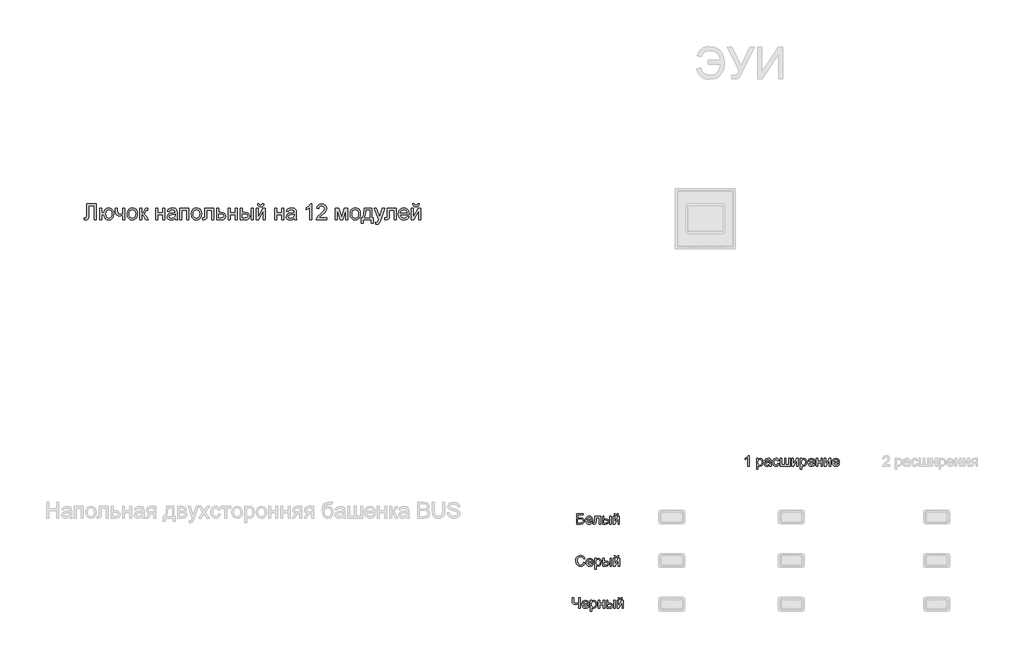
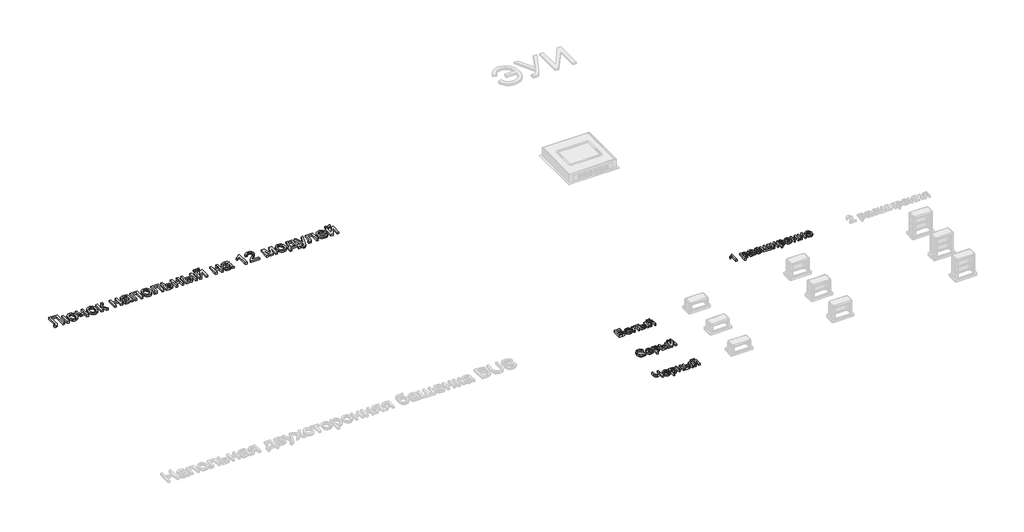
# One storey, part 36 of 48: 5 proxies.
"""IFC4 building model written with IfcOpenShell, lengths in millimetres."""

import ifcopenshell
import ifcopenshell.guid

model = None  # the IFC model being written
_history = None  # IfcOwnerHistory: only IFC2X3 demands one
_inside = {}  # id of a spatial element -> (the spatial element, [elements in it])
_under = {}  # id of a project, library or spatial element -> (it, [spatial elements below it])
_declared = {}  # id of a project -> (the project, [libraries it declares])
_typed = {}  # id of a type object -> (the type object, [elements of that type])
_made_of = {}  # id of a material, layer set ... -> (it, [elements and type objects made of it])


def new_model(schema):
    """Start an empty IFC model of exactly this schema.

    Asked for "IFC4X3", IfcOpenShell would pick the latest addendum, in which some entities
    have other attributes; the version numbers below select the first issue.
    IFC2X3 requires an IfcOwnerHistory on every rooted entity: one is made here for all.
    """
    global model, _history
    if schema == "IFC4X3":
        model = ifcopenshell.file(schema_version=(4, 3, 0, 0))
    else:
        model = ifcopenshell.file(schema=schema)
    _inside.clear()
    _under.clear()
    _declared.clear()
    _typed.clear()
    _made_of.clear()
    _history = None
    if model.schema == "IFC2X3":
        org = make("IfcOrganization", Name="unknown")
        user = make(
            "IfcPersonAndOrganization",
            ThePerson=make("IfcPerson", FamilyName="unknown"),
            TheOrganization=org,
        )
        app = make(
            "IfcApplication",
            ApplicationDeveloper=org,
            Version="unknown",
            ApplicationFullName="unknown",
            ApplicationIdentifier="unknown",
        )
        _history = make(
            "IfcOwnerHistory",
            OwningUser=user,
            OwningApplication=app,
            ChangeAction="ADDED",
            CreationDate=0,
        )
    return model


def make(cls, **values):
    """One entity of the class cls with the attributes given. An attribute that is None is left unset."""
    return model.create_entity(
        cls, **{name: value for name, value in values.items() if value is not None}
    )


def rooted(cls, **values):
    """An entity with a GlobalId (a new one), such as an element, a storey or a relation."""
    return make(cls, GlobalId=ifcopenshell.guid.new(), OwnerHistory=_history, **values)


def si_unit(unit_type, name, prefix=None):
    """IfcSIUnit, for example si_unit("LENGTHUNIT", "METRE", prefix="MILLI")."""
    return make("IfcSIUnit", UnitType=unit_type, Prefix=prefix, Name=name)


def assignment(units):
    """IfcUnitAssignment: the units of a project."""
    return None if units is None else make("IfcUnitAssignment", Units=units)


def point(xyz):
    """IfcCartesianPoint."""
    return None if xyz is None else make("IfcCartesianPoint", Coordinates=xyz)


def direction(xyz):
    """IfcDirection."""
    return None if xyz is None else make("IfcDirection", DirectionRatios=xyz)


def frame(location, z_axis=None, x_axis=None):
    """IfcAxis2Placement3D, a coordinate frame: its origin and axes. An axis left out is left unset."""
    return make(
        "IfcAxis2Placement3D",
        Location=point(location),
        Axis=direction(z_axis),
        RefDirection=direction(x_axis),
    )


def origin():
    """The frame at (0, 0, 0) with its axes left unset."""
    return frame((0.0, 0.0, 0.0))


def origin_with_axes():
    """The frame at (0, 0, 0) with the z axis (0, 0, 1) and the x axis (1, 0, 0) written out."""
    return frame((0.0, 0.0, 0.0), z_axis=(0.0, 0.0, 1.0), x_axis=(1.0, 0.0, 0.0))


def place(relative_to, where):
    """IfcLocalPlacement: puts the frame where relative to a parent placement (None: the world)."""
    return make(
        "IfcLocalPlacement", PlacementRelTo=relative_to, RelativePlacement=where
    )


def context(
    kind, dimensions, precision=None, world=None, true_north=None, identifier=None
):
    """IfcGeometricRepresentationContext, for example the 3D "Model" context."""
    return make(
        "IfcGeometricRepresentationContext",
        ContextIdentifier=identifier,
        ContextType=kind,
        CoordinateSpaceDimension=dimensions,
        Precision=precision,
        WorldCoordinateSystem=world,
        TrueNorth=true_north,
    )


def project(units=None, contexts=None):
    """IfcProject with its units and contexts."""
    return rooted(
        "IfcProject",
        Name="project",
        RepresentationContexts=contexts,
        UnitsInContext=assignment(units),
    )


def spatial(cls, under=None, at=None, **own):
    """A site, building, storey or space (cls), placed at a placement, below another one or the project."""
    s = rooted(cls, ObjectPlacement=at, **own)
    if under is not None:
        _under.setdefault(under.id(), (under, []))[1].append(s)
    return s


def polyline(points):
    """IfcPolyline through the points."""
    return make("IfcPolyline", Points=[point(p) for p in points])


def outline(outer, holes=None, kind="AREA"):
    """IfcArbitraryClosedProfileDef: a profile drawn as a closed curve; with holes, ...WithVoids."""
    if holes is None:
        return make("IfcArbitraryClosedProfileDef", ProfileType=kind, OuterCurve=outer)
    return make(
        "IfcArbitraryProfileDefWithVoids",
        ProfileType=kind,
        OuterCurve=outer,
        InnerCurves=holes,
    )


def extrude(swept, where, along, depth):
    """IfcExtrudedAreaSolid: the profile swept, set in the frame where, extruded along a direction by depth."""
    return make(
        "IfcExtrudedAreaSolid",
        SweptArea=swept,
        Position=where,
        ExtrudedDirection=direction(along),
        Depth=depth,
    )


def shape(context_of_items, identifier, shape_type, items):
    """IfcShapeRepresentation: the items that make up one representation, for example the "Body"."""
    return make(
        "IfcShapeRepresentation",
        ContextOfItems=context_of_items,
        RepresentationIdentifier=identifier,
        RepresentationType=shape_type,
        Items=items,
    )


def made_of(thing, what):
    """Note that an element or type object is made of a material, layer set ...; save() writes the relation."""
    if what is not None:
        _made_of.setdefault(what.id(), (what, []))[1].append(thing)
    return thing


def element(
    cls,
    number,
    at=None,
    inside=None,
    cuts=None,
    type_object=None,
    material=None,
    context=None,
    identifier="Body",
    shape_type=None,
    held_by="IfcProductDefinitionShape",
    body=None,
    shapes=None,
    **own,
):
    """One element of the class cls, such as IfcWall. Its Tag is "e" and its number.

    at: its placement. inside: the storey or other place that contains it. cuts: it is an
    opening in that element (IfcRelVoidsElement). A single representation is given by context,
    identifier, shape_type and body (its items); several are given by shapes. held_by: the class
    of the entity that holds the representations. save() writes the other relations.
    """
    e = rooted(cls, Tag="e%d" % number, ObjectPlacement=at, **own)
    if body is not None:
        shapes = [shape(context, identifier, shape_type, body)]
    if shapes is not None:
        e.Representation = make(held_by, Representations=shapes)
    if inside is not None:
        _inside.setdefault(inside.id(), (inside, []))[1].append(e)
    if cuts is not None:
        rooted(
            "IfcRelVoidsElement", RelatingBuildingElement=cuts, RelatedOpeningElement=e
        )
    if type_object is not None:
        _typed.setdefault(type_object.id(), (type_object, []))[1].append(e)
    return made_of(e, material)


def aggregate(whole, parts):
    """IfcRelAggregates: a whole, such as a stair, and the parts it consists of."""
    return rooted("IfcRelAggregates", RelatingObject=whole, RelatedObjects=parts)


def save(model, path):
    """Write the relations noted so far, then the file.

    IfcRelAggregates (storeys below a building ...), IfcRelContainedInSpatialStructure (elements
    in a storey), IfcRelDefinesByType, IfcRelAssociatesMaterial and IfcRelDeclares: one each for
    every whole, place, type object, material and project.
    """
    for whole, parts in _under.values():
        aggregate(whole, parts)
    for where, things in _inside.values():
        rooted(
            "IfcRelContainedInSpatialStructure",
            RelatedElements=things,
            RelatingStructure=where,
        )
    for kind, things in _typed.values():
        rooted("IfcRelDefinesByType", RelatedObjects=things, RelatingType=kind)
    for what, things in _made_of.values():
        rooted("IfcRelAssociatesMaterial", RelatedObjects=things, RelatingMaterial=what)
    for by, libraries in _declared.values():
        rooted("IfcRelDeclares", RelatingContext=by, RelatedDefinitions=libraries)
    model.write(path)


model = new_model("IFC4")

# Units and contexts
model_context = context("Model", 3, world=origin())
ifc_project = project(units=[si_unit("LENGTHUNIT", "METRE", prefix="MILLI")], contexts=[model_context])

# Site, building, storey
site = spatial("IfcSite", under=ifc_project)
building = spatial("IfcBuilding", under=site)
storey = spatial("IfcBuildingStorey", under=building, Name="Этаж 01", Elevation=0.0)

# Proxies
placement = place(None, origin())
element("IfcBuildingElementProxy", 1, Name="150 мм Arial", ObjectType="150 мм Arial", at=placement, inside=storey, context=model_context, shape_type="SweptSolid", body=[
    extrude(outline(polyline([(19977.6661893, 4018.1482068), (20069.4895353, 4018.1482068), (20069.4895353, 3867.4637416), (20050.6539772, 3867.4637416), (20050.6539772, 3999.3126486), (19996.5017475, 3999.3126486), (19996.5017475, 3922.4253117), (19994.3128496, 3888.1203156), (19990.9237367, 3878.426625), (19985.1341938, 3871.1609556), (19977.2063369, 3866.6222115), (19967.4022817, 3865.1092968), (19951.7672969, 3867.4637416), (19954.1217417, 3886.2992997), (19963.1348505, 3883.944855), (19974.0425517, 3889.0032324), (19977.6661893, 3912.8235916), (19977.6661893, 4018.1482068)])), origin_with_axes(), (0.0, 0.0, 1.0), 20.0),
    extrude(outline(polyline([(20100.0973173, 3978.1226457), (20118.9328755, 3978.1226457), (20118.9328755, 3935.7426399), (20140.1228784, 3935.7426399), (20145.0111104, 3954.94608), (20154.7461877, 3968.9991722), (20168.711908, 3977.6076109), (20186.2920688, 3980.4770905), (20201.0671294, 3978.7894318), (20212.3565082, 3973.7264559), (20228.1018576, 3955.130021), (20232.7509663, 3941.2240816), (20234.3006692, 3923.1978638), (20231.0954973, 3898.0715236), (20221.4799816, 3879.8613648), (20206.3738272, 3868.7973138), (20186.696739, 3865.1092968), (20168.3072378, 3868.5673876), (20153.9736355, 3878.9416598), (20144.3581199, 3895.3491968), (20140.1228784, 3916.9070817), (20118.9328755, 3916.9070817), (20118.9328755, 3867.4637416), (20100.0973173, 3867.4637416), (20100.0973173, 3978.1226457)]), holes=[polyline([(20187.5060794, 3961.6415323), (20175.4993308, 3959.2043141), (20166.4816234, 3951.8926595), (20160.8392333, 3940.184815), (20158.9584366, 3924.5590272), (20160.8530288, 3906.353467), (20166.5368057, 3893.7489101), (20175.3935647, 3886.3958687), (20186.8071036, 3883.944855), (20198.2528322, 3886.2119278), (20207.4268894, 3893.0131461), (20213.4555556, 3904.8635449), (20215.465111, 3922.2781589), (20213.7268686, 3939.4996348), (20208.5121413, 3951.800689), (20199.784141, 3959.1813215), (20187.5060794, 3961.6415323)])]), origin_with_axes(), (0.0, 0.0, 1.0), 20.0),
    extrude(outline(polyline([(20250.7817826, 3978.1226457), (20269.6173407, 3978.1226457), (20269.6173407, 3956.8958546), (20271.144051, 3936.9934387), (20278.4832968, 3926.2144962), (20293.0514238, 3921.6159713), (20319.0606809, 3927.3181422), (20319.0606809, 3978.1226457), (20337.896239, 3978.1226457), (20337.896239, 3867.4637416), (20319.0606809, 3867.4637416), (20319.0606809, 3909.2551362), (20288.0114405, 3902.7804131), (20276.6208942, 3904.4680718), (20266.6558907, 3909.5310477), (20258.888982, 3917.0404389), (20254.0927205, 3926.0673434), (20250.7817826, 3947.5884401), (20250.7817826, 3978.1226457)])), origin_with_axes(), (0.0, 0.0, 1.0), 20.0),
    extrude(outline(polyline([(20361.4406867, 3922.7931936), (20365.5149798, 3949.4738353), (20377.7378591, 3968.2266201), (20392.839415, 3977.4144729), (20410.9208151, 3980.4770905), (20430.7082679, 3976.7476868), (20446.5133981, 3965.5594756), (20456.8738748, 3947.7953737), (20460.327367, 3924.338298), (20458.8006567, 3905.3096018), (20454.2205259, 3890.8242483), (20446.7203317, 3879.9763279), (20436.4334314, 3871.8599314), (20424.2151507, 3866.7969555), (20410.9208151, 3865.1092968), (20390.894239, 3868.824905), (20375.1075028, 3879.9717294), (20364.8573907, 3898.1083118), (20361.4406867, 3922.7931936)]), holes=[polyline([(20380.2762449, 3922.8299818), (20382.4559457, 3905.7832499), (20388.9950482, 3893.6385455), (20398.8358915, 3886.3682776), (20410.9208151, 3883.944855), (20422.9505563, 3886.3820732), (20432.7730056, 3893.6937278), (20439.312108, 3905.9993806), (20441.4918089, 3923.418593), (20439.2983125, 3939.9686843), (20432.7178233, 3951.9478418), (20422.8815784, 3959.2181097), (20410.9208151, 3961.6415323), (20398.8358915, 3959.2273067), (20388.9950482, 3951.98463), (20382.4559457, 3939.8675167), (20380.2762449, 3922.8299818)])]), origin_with_axes(), (0.0, 0.0, 1.0), 20.0),
    extrude(outline(polyline([(20481.5173699, 3978.1226457), (20500.3529281, 3978.1226457), (20500.3529281, 3931.0337503), (20512.9712805, 3934.4182647), (20523.3087646, 3954.1367396), (20531.8988092, 3971.1512819), (20539.4771783, 3976.6879059), (20553.254359, 3978.1226457), (20556.8596026, 3978.1226457), (20556.8596026, 3959.176723), (20551.782831, 3959.2870876), (20542.5857811, 3957.3005248), (20536.111058, 3944.9029016), (20528.5142948, 3931.4936028), (20517.8641111, 3924.9269092), (20529.7466995, 3917.5968605), (20541.4085588, 3902.1550137), (20561.5684921, 3867.4637416), (20540.15776, 3867.4637416), (20520.4024968, 3901.4192497), (20510.469683, 3915.7850416), (20500.3529281, 3919.2615265), (20500.3529281, 3867.4637416), (20481.5173699, 3867.4637416), (20481.5173699, 3978.1226457)])), origin_with_axes(), (0.0, 0.0, 1.0), 20.0),
    extrude(outline(polyline([(20632.2018352, 3978.1226457), (20651.0373933, 3978.1226457), (20651.0373933, 3935.7426399), (20700.4807335, 3935.7426399), (20700.4807335, 3978.1226457), (20719.3162916, 3978.1226457), (20719.3162916, 3867.4637416), (20700.4807335, 3867.4637416), (20700.4807335, 3916.9070817), (20651.0373933, 3916.9070817), (20651.0373933, 3867.4637416), (20632.2018352, 3867.4637416), (20632.2018352, 3978.1226457)])), origin_with_axes(), (0.0, 0.0, 1.0), 20.0),
    extrude(outline(polyline([(20818.2029719, 3881.5904102), (20799.9376309, 3868.824905), (20779.7593034, 3865.1092968), (20764.0185526, 3867.3441799), (20752.4072771, 3874.0488293), (20745.2473738, 3884.2299635), (20742.8607393, 3896.8943012), (20746.4659829, 3911.793522), (20755.9389442, 3922.6092527), (20769.1275138, 3928.7896702), (20785.4246862, 3931.6223615), (20818.0926073, 3938.0970846), (20818.2029719, 3942.2909394), (20816.9061879, 3950.697043), (20813.0158358, 3956.1968788), (20804.3154266, 3960.280369), (20792.1937149, 3961.6415323), (20773.1374275, 3958.0178947), (20764.0507422, 3945.160419), (20745.2151841, 3947.5148637), (20753.3637703, 3965.9089635), (20769.7713073, 3976.6879059), (20794.621736, 3980.4770905), (20817.4488138, 3977.1293643), (20830.3430778, 3968.7232607), (20836.1188251, 3955.9393614), (20837.0385301, 3939.458248), (20837.0385301, 3916.0241649), (20837.9950233, 3883.3010615), (20841.7474196, 3867.4637416), (20822.9118615, 3867.4637416), (20818.2029719, 3881.5904102)]), holes=[polyline([(20818.2029719, 3919.2615265), (20787.8159191, 3913.4857792), (20771.6107172, 3910.4323586), (20764.2714714, 3905.4659517), (20761.6962975, 3898.2186764), (20767.3064979, 3888.0283451), (20783.7692172, 3883.944855), (20802.8255045, 3888.4514094), (20815.1127632, 3899.3591106), (20818.0926073, 3913.9272376), (20818.2029719, 3919.2615265)])]), origin_with_axes(), (0.0, 0.0, 1.0), 20.0),
    extrude(outline(polyline([(20862.9374225, 3978.1226457), (20947.6974342, 3978.1226457), (20947.6974342, 3867.4637416), (20928.8618761, 3867.4637416), (20928.8618761, 3959.2870876), (20881.7729807, 3959.2870876), (20881.7729807, 3867.4637416), (20862.9374225, 3867.4637416), (20862.9374225, 3978.1226457)])), origin_with_axes(), (0.0, 0.0, 1.0), 20.0),
    extrude(outline(polyline([(20971.2418819, 3922.7931936), (20975.316175, 3949.4738353), (20987.5390543, 3968.2266201), (21002.6406102, 3977.4144729), (21020.7220103, 3980.4770905), (21040.5094631, 3976.7476868), (21056.3145933, 3965.5594756), (21066.67507, 3947.7953737), (21070.1285622, 3924.338298), (21068.6018519, 3905.3096018), (21064.0217211, 3890.8242483), (21056.5215269, 3879.9763279), (21046.2346266, 3871.8599314), (21034.0163459, 3866.7969555), (21020.7220103, 3865.1092968), (21000.6954342, 3868.824905), (20984.908698, 3879.9717294), (20974.6585859, 3898.1083118), (20971.2418819, 3922.7931936)]), holes=[polyline([(20990.0774401, 3922.8299818), (20992.2571409, 3905.7832499), (20998.7962434, 3893.6385455), (21008.6370867, 3886.3682776), (21020.7220103, 3883.944855), (21032.7517515, 3886.3820732), (21042.5742008, 3893.6937278), (21049.1133032, 3905.9993806), (21051.2930041, 3923.418593), (21049.0995077, 3939.9686843), (21042.5190185, 3951.9478418), (21032.6827736, 3959.2181097), (21020.7220103, 3961.6415323), (21008.6370867, 3959.2273067), (20998.7962434, 3951.98463), (20992.2571409, 3939.8675167), (20990.0774401, 3922.8299818)])]), origin_with_axes(), (0.0, 0.0, 1.0), 20.0),
    extrude(outline(polyline([(21100.7363442, 3978.1226457), (21185.4963559, 3978.1226457), (21185.4963559, 3867.5741062), (21166.6607978, 3867.5741062), (21166.6607978, 3959.2870876), (21119.5719024, 3959.2870876), (21119.5719024, 3906.4960213), (21118.3027095, 3882.1422332), (21111.3313457, 3871.8599314), (21094.8502323, 3867.4637416), (21079.5463413, 3868.4202348), (21079.5463413, 3886.2992997), (21087.970839, 3886.2992997), (21096.4873072, 3887.458128), (21099.8902156, 3891.136948), (21100.7363442, 3907.562879), (21100.7363442, 3978.1226457)])), origin_with_axes(), (0.0, 0.0, 1.0), 20.0),
    extrude(outline(polyline([(21213.7496931, 3978.1226457), (21232.5852513, 3978.1226457), (21232.5852513, 3938.0970846), (21254.290289, 3938.0970846), (21273.1074531, 3935.7380414), (21287.0317866, 3928.6609115), (21295.6402253, 3917.4359121), (21298.5097048, 3902.6332603), (21296.0678881, 3889.1549837), (21288.7424379, 3877.7828315), (21276.0459105, 3870.0435141), (21257.4908624, 3867.4637416), (21213.7496931, 3867.4637416), (21213.7496931, 3978.1226457)]), holes=[polyline([(21232.5852513, 3886.2992997), (21250.1700107, 3886.2992997), (21272.8867239, 3890.2540312), (21277.977291, 3895.3170071), (21279.6741467, 3902.5964721), (21274.6525574, 3914.184755), (21266.5821462, 3917.9923336), (21252.4140908, 3919.2615265), (21232.5852513, 3919.2615265), (21232.5852513, 3886.2992997)])]), origin_with_axes(), (0.0, 0.0, 1.0), 20.0),
    extrude(outline(polyline([(21322.0541525, 3978.1226457), (21340.8897107, 3978.1226457), (21340.8897107, 3935.7426399), (21390.3330508, 3935.7426399), (21390.3330508, 3978.1226457), (21409.168609, 3978.1226457), (21409.168609, 3867.4637416), (21390.3330508, 3867.4637416), (21390.3330508, 3916.9070817), (21340.8897107, 3916.9070817), (21340.8897107, 3867.4637416), (21322.0541525, 3867.4637416), (21322.0541525, 3978.1226457)])), origin_with_axes(), (0.0, 0.0, 1.0), 20.0),
    extrude(outline(polyline([(21541.017516, 3978.1226457), (21559.8530742, 3978.1226457), (21559.8530742, 3867.4637416), (21541.017516, 3867.4637416), (21541.017516, 3978.1226457)])), origin_with_axes(), (0.0, 0.0, 1.0), 20.0),
    extrude(outline(polyline([(21437.4219462, 3978.1226457), (21456.2575044, 3978.1226457), (21456.2575044, 3938.0970846), (21479.5444347, 3938.0970846), (21499.6721783, 3935.7380414), (21514.5851947, 3928.6609115), (21523.8144342, 3917.4359121), (21526.8908474, 3902.6332603), (21524.3110749, 3889.1549837), (21516.5717575, 3877.7828315), (21503.1670573, 3870.0435141), (21483.5911366, 3867.4637416), (21437.4219462, 3867.4637416), (21437.4219462, 3978.1226457)]), holes=[polyline([(21456.2575044, 3886.2992997), (21475.6080973, 3886.2992997), (21500.5872848, 3890.2540312), (21506.1882882, 3895.3170071), (21508.0552893, 3902.5964721), (21502.5186653, 3914.184755), (21493.6389136, 3917.9923336), (21478.0729067, 3919.2615265), (21456.2575044, 3919.2615265), (21456.2575044, 3886.2992997)])]), origin_with_axes(), (0.0, 0.0, 1.0), 20.0),
    extrude(outline(polyline([(21588.1064114, 3978.1226457), (21606.9419696, 3978.1226457), (21606.9419696, 3893.730516), (21653.2215246, 3978.1226457), (21677.5753127, 3978.1226457), (21677.5753127, 3867.4637416), (21658.7397545, 3867.4637416), (21658.7397545, 3951.3408365), (21612.7545051, 3867.4637416), (21588.1064114, 3867.4637416), (21588.1064114, 3978.1226457)])), origin_with_axes(), (0.0, 0.0, 1.0), 20.0),
    extrude(outline(polyline([(21649.3219754, 4018.1482068), (21663.448644, 4018.1482068), (21660.4090191, 4006.0862759), (21654.3067765, 3997.1973272), (21645.4178278, 3991.720484), (21634.0180844, 3989.8948696), (21621.6480523, 3991.7066884), (21612.0555293, 3997.1421449), (21605.4980328, 4006.017298), (21602.23308, 4018.1482068), (21616.3597487, 4018.1482068), (21621.6572494, 4007.5348112), (21632.3258273, 4004.0215382), (21644.0244747, 4007.4244466), (21649.3219754, 4018.1482068)])), origin_with_axes(), (0.0, 0.0, 1.0), 20.0),
    extrude(outline(polyline([(21764.6897691, 3978.1226457), (21783.5253273, 3978.1226457), (21783.5253273, 3935.7426399), (21832.9686674, 3935.7426399), (21832.9686674, 3978.1226457), (21851.8042256, 3978.1226457), (21851.8042256, 3867.4637416), (21832.9686674, 3867.4637416), (21832.9686674, 3916.9070817), (21783.5253273, 3916.9070817), (21783.5253273, 3867.4637416), (21764.6897691, 3867.4637416), (21764.6897691, 3978.1226457)])), origin_with_axes(), (0.0, 0.0, 1.0), 20.0),
    extrude(outline(polyline([(21950.6909059, 3881.5904102), (21932.4255648, 3868.824905), (21912.2472374, 3865.1092968), (21896.5064865, 3867.3441799), (21884.895211, 3874.0488293), (21877.7353077, 3884.2299635), (21875.3486733, 3896.8943012), (21878.9539168, 3911.793522), (21888.4268782, 3922.6092527), (21901.6154477, 3928.7896702), (21917.9126201, 3931.6223615), (21950.5805413, 3938.0970846), (21950.6909059, 3942.2909394), (21949.3941218, 3950.697043), (21945.5037697, 3956.1968788), (21936.8033606, 3960.280369), (21924.6816488, 3961.6415323), (21905.6253615, 3958.0178947), (21896.5386762, 3945.160419), (21877.703118, 3947.5148637), (21885.8517042, 3965.9089635), (21902.2592412, 3976.6879059), (21927.10967, 3980.4770905), (21949.9367478, 3977.1293643), (21962.8310117, 3968.7232607), (21968.606759, 3955.9393614), (21969.526464, 3939.458248), (21969.526464, 3916.0241649), (21970.4829572, 3883.3010615), (21974.2353536, 3867.4637416), (21955.3997954, 3867.4637416), (21950.6909059, 3881.5904102)]), holes=[polyline([(21950.6909059, 3919.2615265), (21920.3038531, 3913.4857792), (21904.0986512, 3910.4323586), (21896.7594054, 3905.4659517), (21894.1842314, 3898.2186764), (21899.7944318, 3888.0283451), (21916.2571511, 3883.944855), (21935.3134385, 3888.4514094), (21947.6006971, 3899.3591106), (21950.5805413, 3913.9272376), (21950.6909059, 3919.2615265)])]), origin_with_axes(), (0.0, 0.0, 1.0), 20.0),
    extrude(outline(polyline([(22120.2109293, 3867.4637416), (22101.3753711, 3867.4637416), (22101.3753711, 3984.8916744), (22083.5330943, 3972.1813515), (22063.7042548, 3962.6716019), (22063.7042548, 3980.4770905), (22091.3137985, 3998.0986381), (22108.0708234, 4018.1482068), (22120.2109293, 4018.1482068), (22120.2109293, 3867.4637416)])), origin_with_axes(), (0.0, 0.0, 1.0), 20.0),
    extrude(outline(polyline([(22261.4776154, 3886.2992997), (22261.4776154, 3867.4637416), (22162.5909351, 3867.4637416), (22164.6142861, 3880.449976), (22176.0554161, 3900.4443624), (22199.636652, 3922.2781589), (22232.1574204, 3953.658493), (22238.2550645, 3964.4742237), (22240.2876125, 3974.9956488), (22238.3700276, 3984.4272234), (22232.6172729, 3992.2677084), (22223.7743094, 3997.5514136), (22212.5860982, 3999.3126486), (22200.836867, 3997.5928003), (22191.708795, 3992.4332553), (22185.8180846, 3984.2386839), (22183.780938, 3973.4137562), (22164.9453799, 3975.768201), (22169.5117151, 3993.9875568), (22179.3847482, 4007.2956879), (22194.0494442, 4015.4350771), (22212.9907684, 4018.1482068), (22232.0700484, 4015.1315744), (22246.7071533, 4006.0816774), (22256.0191663, 3992.562014), (22259.1231706, 3976.1360829), (22255.7754445, 3958.2754121), (22244.6470141, 3939.8077359), (22217.6628698, 3914.000814), (22195.9946203, 3895.8826257), (22187.4965462, 3886.2992997), (22261.4776154, 3886.2992997)])), origin_with_axes(), (0.0, 0.0, 1.0), 20.0),
    extrude(outline(polyline([(22343.8831823, 3978.1226457), (22376.2935861, 3978.1226457), (22401.2727736, 3889.5366613), (22428.2017356, 3978.1226457), (22459.250976, 3978.1226457), (22459.250976, 3867.4637416), (22440.4154179, 3867.4637416), (22440.4154179, 3956.5647608), (22413.339303, 3867.4637416), (22388.6176329, 3867.4637416), (22362.7187405, 3960.8321919), (22362.7187405, 3867.4637416), (22343.8831823, 3867.4637416), (22343.8831823, 3978.1226457)])), origin_with_axes(), (0.0, 0.0, 1.0), 20.0),
    extrude(outline(polyline([(22482.7954237, 3922.7931936), (22486.8697168, 3949.4738353), (22499.0925961, 3968.2266201), (22514.194152, 3977.4144729), (22532.2755521, 3980.4770905), (22552.0630049, 3976.7476868), (22567.8681351, 3965.5594756), (22578.2286118, 3947.7953737), (22581.682104, 3924.338298), (22580.1553937, 3905.3096018), (22575.5752629, 3890.8242483), (22568.0750687, 3879.9763279), (22557.7881684, 3871.8599314), (22545.5698877, 3866.7969555), (22532.2755521, 3865.1092968), (22512.2489759, 3868.824905), (22496.4622398, 3879.9717294), (22486.2121277, 3898.1083118), (22482.7954237, 3922.7931936)]), holes=[polyline([(22501.6309819, 3922.8299818), (22503.8106827, 3905.7832499), (22510.3497851, 3893.6385455), (22520.1906285, 3886.3682776), (22532.2755521, 3883.944855), (22544.3052933, 3886.3820732), (22554.1277426, 3893.6937278), (22560.666845, 3905.9993806), (22562.8465459, 3923.418593), (22560.6530495, 3939.9686843), (22554.0725603, 3951.9478418), (22544.2363154, 3959.2181097), (22532.2755521, 3961.6415323), (22520.1906285, 3959.2273067), (22510.3497851, 3951.98463), (22503.8106827, 3939.8675167), (22501.6309819, 3922.8299818)])]), origin_with_axes(), (0.0, 0.0, 1.0), 20.0),
    extrude(outline(polyline([(22619.3532203, 3978.1226457), (22689.9865634, 3978.1226457), (22689.9865634, 3886.2992997), (22704.113232, 3886.2992997), (22704.113232, 3836.8559596), (22685.2776738, 3836.8559596), (22685.2776738, 3867.4637416), (22607.5809965, 3867.4637416), (22607.5809965, 3836.8559596), (22588.7454383, 3836.8559596), (22588.7454383, 3886.2992997), (22600.5176622, 3886.2992997), (22609.0755171, 3901.7641391), (22615.0673951, 3922.2229766), (22619.3532203, 3978.1226457)]), holes=[polyline([(22635.8343337, 3959.2870876), (22631.4197498, 3916.3736528), (22621.7076651, 3886.2992997), (22671.1510052, 3886.2992997), (22671.1510052, 3959.2870876), (22635.8343337, 3959.2870876)])]), origin_with_axes(), (0.0, 0.0, 1.0), 20.0),
    extrude(outline(polyline([(22725.3032349, 3825.0837357), (22722.9487902, 3843.2203181), (22732.513722, 3841.5648491), (22741.4532545, 3843.6433824), (22746.9346962, 3849.4375238), (22752.0850442, 3863.306675), (22753.5565722, 3867.8684118), (22713.5310111, 3978.1226457), (22733.3966388, 3978.1226457), (22754.6234299, 3916.6863525), (22762.017858, 3892.1118352), (22769.4122861, 3913.816873), (22791.2276885, 3978.1226457), (22810.9461634, 3978.1226457), (22772.4289185, 3864.8149912), (22762.4225282, 3840.2404739), (22751.496433, 3826.9599339), (22736.8179414, 3822.729291), (22725.3032349, 3825.0837357)])), origin_with_axes(), (0.0, 0.0, 1.0), 20.0),
    extrude(outline(polyline([(22835.9621391, 3978.1226457), (22920.7221508, 3978.1226457), (22920.7221508, 3867.5741062), (22901.8865926, 3867.5741062), (22901.8865926, 3959.2870876), (22854.7976972, 3959.2870876), (22854.7976972, 3906.4960213), (22853.5285043, 3882.1422332), (22846.5571405, 3871.8599314), (22830.0760271, 3867.4637416), (22814.7721361, 3868.4202348), (22814.7721361, 3886.2992997), (22823.1966338, 3886.2992997), (22831.713102, 3887.458128), (22835.1160105, 3891.136948), (22835.9621391, 3907.562879), (22835.9621391, 3978.1226457)])), origin_with_axes(), (0.0, 0.0, 1.0), 20.0),
    extrude(outline(polyline([(23026.4514362, 3900.4259683), (23044.9191123, 3898.0715236), (23038.2650467, 3884.1563871), (23027.6470527, 3873.7545237), (23013.3042534, 3867.2706035), (22995.4757722, 3865.1092968), (22973.3752613, 3868.8387005), (22956.3699161, 3880.0269117), (22945.5265943, 3897.9473634), (22941.9121537, 3921.8734887), (22945.5633825, 3946.6043558), (22956.5170689, 3965.0996231), (22973.2924879, 3976.6327236), (22994.4089144, 3980.4770905), (23014.8677519, 3976.6419207), (23031.215508, 3965.1364113), (23041.9346696, 3946.6779322), (23045.5077235, 3921.9838533), (23045.3973589, 3916.9070817), (22960.7477118, 3916.9070817), (22964.008066, 3902.8080043), (22971.5818366, 3892.442929), (22982.5125304, 3886.0693735), (22995.8436542, 3883.944855), (23014.3113303, 3887.8811923), (23026.4514362, 3900.4259683)]), holes=[polyline([(22960.7477118, 3935.7426399), (23026.6721654, 3935.7426399), (23024.1245826, 3945.6938478), (23019.1305845, 3952.8123645), (23008.1493069, 3959.4342404), (22994.335338, 3961.6415323), (22981.6388106, 3959.8802973), (22971.1403782, 3954.5965921), (22963.8425191, 3946.360634), (22960.7477118, 3935.7426399)])]), origin_with_axes(), (0.0, 0.0, 1.0), 20.0),
    extrude(outline(polyline([(23064.3432817, 3978.1226457), (23083.1788398, 3978.1226457), (23083.1788398, 3893.730516), (23129.4583948, 3978.1226457), (23153.8121829, 3978.1226457), (23153.8121829, 3867.4637416), (23134.9766248, 3867.4637416), (23134.9766248, 3951.3408365), (23088.9913754, 3867.4637416), (23064.3432817, 3867.4637416), (23064.3432817, 3978.1226457)])), origin_with_axes(), (0.0, 0.0, 1.0), 20.0),
    extrude(outline(polyline([(23125.5588457, 4018.1482068), (23139.6855143, 4018.1482068), (23136.6458893, 4006.0862759), (23130.5436467, 3997.1973272), (23121.654698, 3991.720484), (23110.2549547, 3989.8948696), (23097.8849226, 3991.7066884), (23088.2923996, 3997.1421449), (23081.734903, 4006.017298), (23078.4699503, 4018.1482068), (23092.5966189, 4018.1482068), (23097.8941196, 4007.5348112), (23108.5626975, 4004.0215382), (23120.2613449, 4007.4244466), (23125.5588457, 4018.1482068)])), origin_with_axes(), (0.0, 0.0, 1.0), 20.0),
])
element("IfcBuildingElementProxy", 2, Name="100 мм Arial", ObjectType="100 мм Arial", at=placement, inside=storey, context=model_context, shape_type="SweptSolid", body=[
    extrude(outline(polyline([(24637.8267387, 1072.5577732), (24700.6119326, 1072.5577732), (24700.6119326, 1060.0007344), (24650.3837775, 1060.0007344), (24650.3837775, 1030.1777673), (24673.9036997, 1030.1777673), (24694.6277188, 1027.6271188), (24706.9640284, 1017.9886106), (24711.5993415, 1001.5074972), (24708.3006663, 987.1968876), (24698.4536915, 976.3198432), (24676.1600426, 972.101463), (24637.8267387, 972.101463), (24637.8267387, 1072.5577732)]), holes=[polyline([(24650.3837775, 984.6585018), (24677.2882141, 984.6585018), (24693.5976492, 988.8033056), (24697.6811394, 993.9843104), (24699.0423027, 1001.2377171), (24695.9275685, 1011.0724291), (24687.2578162, 1016.3208789), (24668.3364189, 1017.6207286), (24650.3837775, 1017.6207286), (24650.3837775, 984.6585018)])]), origin_with_axes(), (0.0, 0.0, 1.0), 20.0),
    extrude(outline(polyline([(24778.9462721, 994.0762809), (24791.2580562, 992.506651), (24786.8220125, 983.2298934), (24779.7433497, 976.2953178), (24770.1814836, 971.9727043), (24758.2958294, 970.5318332), (24743.5621555, 973.0181023), (24732.2252587, 980.4769098), (24724.9963775, 992.4238776), (24722.5867504, 1008.3746278), (24725.020903, 1024.8618725), (24732.3233606, 1037.1920507), (24743.5069732, 1044.8807844), (24757.5845909, 1047.4436956), (24771.2238159, 1044.8869158), (24782.12232, 1037.2165762), (24789.2684277, 1024.9109234), (24791.6504637, 1008.4482042), (24791.5768873, 1005.0636898), (24735.1437892, 1005.0636898), (24737.3173586, 995.6643048), (24742.366539, 988.7542547), (24749.6536682, 984.5052176), (24758.5410841, 983.088872), (24770.8528682, 985.7130969), (24778.9462721, 994.0762809)]), holes=[polyline([(24735.1437892, 1017.6207286), (24779.0934249, 1017.6207286), (24774.0657043, 1029.000545), (24766.7448526, 1033.4151289), (24757.53554, 1034.8866569), (24742.0722334, 1030.1900301), (24737.2069941, 1024.6993913), (24735.1437892, 1017.6207286)])]), origin_with_axes(), (0.0, 0.0, 1.0), 20.0),
    extrude(outline(polyline([(24810.4860218, 1045.8740658), (24866.9926963, 1045.8740658), (24866.9926963, 972.1750394), (24854.4356575, 972.1750394), (24854.4356575, 1033.317027), (24823.0430606, 1033.317027), (24823.0430606, 998.1229828), (24822.196932, 981.8871241), (24817.5493561, 975.0322563), (24806.5619472, 972.101463), (24796.3593532, 972.7391252), (24796.3593532, 984.6585018), (24801.975685, 984.6585018), (24807.6533304, 985.431054), (24809.9219361, 987.8836006), (24810.4860218, 998.8342214), (24810.4860218, 1045.8740658)])), origin_with_axes(), (0.0, 0.0, 1.0), 20.0),
    extrude(outline(polyline([(24954.8919676, 1045.8740658), (24967.4490064, 1045.8740658), (24967.4490064, 972.101463), (24954.8919676, 972.101463), (24954.8919676, 1045.8740658)])), origin_with_axes(), (0.0, 0.0, 1.0), 20.0),
    extrude(outline(polyline([(24885.8282544, 1045.8740658), (24898.3852932, 1045.8740658), (24898.3852932, 1019.1903584), (24913.9099134, 1019.1903584), (24927.3284092, 1017.6176629), (24937.2704201, 1012.8995763), (24943.4232464, 1005.4162434), (24945.4741886, 995.5478089), (24943.7543402, 986.5622911), (24938.5947953, 978.9808563), (24929.6583285, 973.8213114), (24916.6077147, 972.101463), (24885.8282544, 972.101463), (24885.8282544, 1045.8740658)]), holes=[polyline([(24898.3852932, 984.6585018), (24911.2856885, 984.6585018), (24927.9384801, 987.2949894), (24932.9171498, 995.5232834), (24929.2260671, 1003.2488053), (24912.9288947, 1006.6333197), (24898.3852932, 1006.6333197), (24898.3852932, 984.6585018)])]), origin_with_axes(), (0.0, 0.0, 1.0), 20.0),
    extrude(outline(polyline([(24986.2845646, 1045.8740658), (24998.8416033, 1045.8740658), (24998.8416033, 989.612646), (25029.69464, 1045.8740658), (25045.9304987, 1045.8740658), (25045.9304987, 972.101463), (25033.37346, 972.101463), (25033.37346, 1028.0195263), (25002.716627, 972.101463), (24986.2845646, 972.101463), (24986.2845646, 1045.8740658)])), origin_with_axes(), (0.0, 0.0, 1.0), 20.0),
    extrude(outline(polyline([(25027.0949406, 1072.5577732), (25036.5127196, 1072.5577732), (25030.4181413, 1058.5905201), (25016.8923466, 1053.722215), (25002.2506432, 1058.5537319), (24995.7023436, 1072.5577732), (25005.1201227, 1072.5577732), (25008.6517899, 1065.4821761), (25015.7641751, 1063.1399941), (25023.5632734, 1065.4085997), (25027.0949406, 1072.5577732)])), origin_with_axes(), (0.0, 0.0, 1.0), 20.0),
])
element("IfcBuildingElementProxy", 3, Name="100 мм Arial", ObjectType="100 мм Arial", at=placement, inside=storey, context=model_context, shape_type="SweptSolid", body=[
    extrude(outline(polyline([(24706.105637, 607.810542), (24718.6626758, 604.5731805), (24712.8685344, 589.9406741), (24703.7757177, 579.2506365), (24691.8318156, 572.711534), (24677.4844178, 570.5318332), (24662.9193565, 572.1811708), (24651.3525334, 577.1291836), (24642.4865773, 585.2041934), (24636.024117, 596.2345219), (24630.7634044, 623.0899076), (24632.2502608, 637.7377423), (24636.71083, 650.3867516), (24643.9121201, 660.6353309), (24653.6211391, 668.0818756), (24665.1358455, 672.6160212), (24677.7541979, 674.127403), (24691.5221816, 672.1714971), (24702.9050637, 666.3037793), (24711.5472249, 656.8860002), (24717.093046, 644.2799105), (24704.5360072, 641.2878036), (24694.2353113, 656.7265847), (24677.2636886, 661.5703643), (24657.6187901, 656.1992871), (24646.5210166, 641.7783129), (24643.3204432, 623.114433), (24647.1096277, 601.4829717), (24658.9063771, 587.6628714), (24676.233619, 583.088872), (24686.7151902, 584.6462391), (24695.4493219, 589.3183404), (24702.0436067, 597.056125), (24706.105637, 607.810542)])), origin_with_axes(), (0.0, 0.0, 1.0), 20.0),
    extrude(outline(polyline([(24786.0096064, 594.0762809), (24798.3213905, 592.506651), (24793.8853468, 583.2298934), (24786.8066841, 576.2953178), (24777.2448179, 571.9727043), (24765.3591637, 570.5318332), (24750.6254898, 573.0181023), (24739.288593, 580.4769098), (24732.0597118, 592.4238776), (24729.6500847, 608.3746278), (24732.0842373, 624.8618725), (24739.3866949, 637.1920507), (24750.5703075, 644.8807844), (24764.6479252, 647.4436956), (24778.2871502, 644.8869158), (24789.1856543, 637.2165762), (24796.331762, 624.9109234), (24798.713798, 608.4482042), (24798.6402216, 605.0636898), (24742.2071235, 605.0636898), (24744.380693, 595.6643048), (24749.4298733, 588.7542547), (24756.7170025, 584.5052176), (24765.6044184, 583.088872), (24777.9162025, 585.7130969), (24786.0096064, 594.0762809)]), holes=[polyline([(24742.2071235, 617.6207286), (24786.1567592, 617.6207286), (24781.1290386, 629.000545), (24773.8081869, 633.4151289), (24764.5988743, 634.8866569), (24749.1355677, 630.1900301), (24744.2703284, 624.6993913), (24742.2071235, 617.6207286)])]), origin_with_axes(), (0.0, 0.0, 1.0), 20.0),
    extrude(outline(polyline([(24811.2708367, 543.8481258), (24811.2708367, 645.8740658), (24823.8278755, 645.8740658), (24823.8278755, 633.5622817), (24832.5098906, 643.9733422), (24844.2330635, 647.4436956), (24860.1500912, 642.5876533), (24870.5488889, 628.9024431), (24874.0560306, 609.5518501), (24870.0951678, 589.2079758), (24858.592724, 575.3510873), (24842.7124846, 570.5318332), (24831.7863893, 573.756932), (24823.8278755, 581.9116496), (24823.8278755, 543.8481258), (24811.2708367, 543.8481258)]), holes=[polyline([(24823.8278755, 608.3991532), (24825.1859732, 597.1419642), (24829.2602663, 589.2692895), (24835.2720712, 584.6339763), (24842.4427045, 583.088872), (24849.7298336, 584.6891586), (24855.8949227, 589.4900187), (24860.0979745, 597.6508676), (24861.4989918, 609.3311209), (24860.1316971, 620.5269963), (24856.0298128, 628.5100356), (24850.0272049, 633.2925016), (24842.9577392, 634.8866569), (24835.8606824, 633.191334), (24829.6281483, 628.1053654), (24825.2779437, 619.7881667), (24823.8278755, 608.3991532)])]), origin_with_axes(), (0.0, 0.0, 1.0), 20.0),
    extrude(outline(polyline([(24957.2464124, 645.8740658), (24969.8034512, 645.8740658), (24969.8034512, 572.101463), (24957.2464124, 572.101463), (24957.2464124, 645.8740658)])), origin_with_axes(), (0.0, 0.0, 1.0), 20.0),
    extrude(outline(polyline([(24888.1826992, 645.8740658), (24900.739738, 645.8740658), (24900.739738, 619.1903584), (24916.2643582, 619.1903584), (24929.6828539, 617.6176629), (24939.6248648, 612.8995763), (24945.7776912, 605.4162434), (24947.8286333, 595.5478089), (24946.108785, 586.5622911), (24940.94924, 578.9808563), (24932.0127732, 573.8213114), (24918.9621595, 572.101463), (24888.1826992, 572.101463), (24888.1826992, 645.8740658)]), holes=[polyline([(24900.739738, 584.6585018), (24913.6401333, 584.6585018), (24930.2929249, 587.2949894), (24935.2715946, 595.5232834), (24931.5805119, 603.2488053), (24915.2833395, 606.6333197), (24900.739738, 606.6333197), (24900.739738, 584.6585018)])]), origin_with_axes(), (0.0, 0.0, 1.0), 20.0),
    extrude(outline(polyline([(25029.4493853, 672.5577732), (25038.8671644, 672.5577732), (25032.772586, 658.5905201), (25019.2467913, 653.722215), (25004.6050879, 658.5537319), (24998.0567884, 672.5577732), (25007.4745675, 672.5577732), (25011.0062346, 665.4821761), (25018.1186199, 663.1399941), (25025.9177182, 665.4085997), (25029.4493853, 672.5577732)])), origin_with_axes(), (0.0, 0.0, 1.0), 20.0),
    extrude(outline(polyline([(24988.6390093, 645.8740658), (25001.1960481, 645.8740658), (25001.1960481, 589.612646), (25032.0490848, 645.8740658), (25048.2849435, 645.8740658), (25048.2849435, 572.101463), (25035.7279047, 572.101463), (25035.7279047, 628.0195263), (25005.0710718, 572.101463), (24988.6390093, 572.101463), (24988.6390093, 645.8740658)])), origin_with_axes(), (0.0, 0.0, 1.0), 20.0),
])
element("IfcBuildingElementProxy", 4, Name="100 мм Arial", ObjectType="100 мм Arial", at=placement, inside=storey, context=model_context, shape_type="SweptSolid", body=[
    extrude(outline(polyline([(24671.5737804, 172.101463), (24659.0167417, 172.101463), (24659.0167417, 212.3232278), (24627.9184503, 205.0636898), (24609.5611388, 210.0300967), (24598.9170864, 222.6361864), (24596.2315478, 242.6367042), (24596.2315478, 272.5577732), (24608.7885866, 272.5577732), (24608.7885866, 244.3289614), (24610.2969028, 230.7510501), (24614.8218513, 222.7833392), (24629.3164019, 217.6207286), (24659.0167417, 223.850197), (24659.0167417, 272.5577732), (24671.5737804, 272.5577732), (24671.5737804, 172.101463)])), origin_with_axes(), (0.0, 0.0, 1.0), 20.0),
    extrude(outline(polyline([(24743.6296005, 194.0762809), (24755.9413847, 192.506651), (24751.5053409, 183.2298934), (24744.4266782, 176.2953178), (24734.864812, 171.9727043), (24722.9791579, 170.5318332), (24708.245484, 173.0181023), (24696.9085872, 180.4769098), (24689.679706, 192.4238776), (24687.2700789, 208.3746278), (24689.7042314, 224.8618725), (24697.006689, 237.1920507), (24708.1903017, 244.8807844), (24722.2679194, 247.4436956), (24735.9071443, 244.8869158), (24746.8056484, 237.2165762), (24753.9517562, 224.9109234), (24756.3337921, 208.4482042), (24756.2602157, 205.0636898), (24699.8271177, 205.0636898), (24702.0006871, 195.6643048), (24707.0498675, 188.7542547), (24714.3369967, 184.5052176), (24723.2244126, 183.088872), (24735.5361967, 185.7130969), (24743.6296005, 194.0762809)]), holes=[polyline([(24699.8271177, 217.6207286), (24743.7767533, 217.6207286), (24738.7490327, 229.000545), (24731.428181, 233.4151289), (24722.2188684, 234.8866569), (24706.7555619, 230.1900301), (24701.8903225, 224.6993913), (24699.8271177, 217.6207286)])]), origin_with_axes(), (0.0, 0.0, 1.0), 20.0),
    extrude(outline(polyline([(24768.8908309, 143.8481258), (24768.8908309, 245.8740658), (24781.4478697, 245.8740658), (24781.4478697, 233.5622817), (24790.1298847, 243.9733422), (24801.8530577, 247.4436956), (24817.7700853, 242.5876533), (24828.168883, 228.9024431), (24831.6760247, 209.5518501), (24827.7151619, 189.2079758), (24816.2127182, 175.3510873), (24800.3324787, 170.5318332), (24789.4063835, 173.756932), (24781.4478697, 181.9116496), (24781.4478697, 143.8481258), (24768.8908309, 143.8481258)]), holes=[polyline([(24781.4478697, 208.3991532), (24782.8059674, 197.1419642), (24786.8802604, 189.2692895), (24792.8920654, 184.6339763), (24800.0626986, 183.088872), (24807.3498278, 184.6891586), (24813.5149169, 189.4900187), (24817.7179687, 197.6508676), (24819.118986, 209.3311209), (24817.7516912, 220.5269963), (24813.649807, 228.5100356), (24807.6471991, 233.2925016), (24800.5777334, 234.8866569), (24793.4806766, 233.191334), (24787.2481424, 228.1053654), (24782.8979379, 219.7881667), (24781.4478697, 208.3991532)])]), origin_with_axes(), (0.0, 0.0, 1.0), 20.0),
    extrude(outline(polyline([(24845.8026933, 245.8740658), (24858.3597321, 245.8740658), (24858.3597321, 217.6207286), (24891.3219589, 217.6207286), (24891.3219589, 245.8740658), (24903.8789976, 245.8740658), (24903.8789976, 172.101463), (24891.3219589, 172.101463), (24891.3219589, 205.0636898), (24858.3597321, 205.0636898), (24858.3597321, 172.101463), (24845.8026933, 172.101463), (24845.8026933, 245.8740658)])), origin_with_axes(), (0.0, 0.0, 1.0), 20.0),
    extrude(outline(polyline([(24991.778269, 245.8740658), (25004.3353078, 245.8740658), (25004.3353078, 172.101463), (24991.778269, 172.101463), (24991.778269, 245.8740658)])), origin_with_axes(), (0.0, 0.0, 1.0), 20.0),
    extrude(outline(polyline([(24922.7145558, 245.8740658), (24935.2715946, 245.8740658), (24935.2715946, 219.1903584), (24950.7962148, 219.1903584), (24964.2147105, 217.6176629), (24974.1567215, 212.8995763), (24980.3095478, 205.4162434), (24982.36049, 195.5478089), (24980.6406416, 186.5622911), (24975.4810966, 178.9808563), (24966.5446298, 173.8213114), (24953.4940161, 172.101463), (24922.7145558, 172.101463), (24922.7145558, 245.8740658)]), holes=[polyline([(24935.2715946, 184.6585018), (24948.1719899, 184.6585018), (24964.8247815, 187.2949894), (24969.8034512, 195.5232834), (24966.1123685, 203.2488053), (24949.8151961, 206.6333197), (24935.2715946, 206.6333197), (24935.2715946, 184.6585018)])]), origin_with_axes(), (0.0, 0.0, 1.0), 20.0),
    extrude(outline(polyline([(25023.170866, 245.8740658), (25035.7279047, 245.8740658), (25035.7279047, 189.612646), (25066.5809414, 245.8740658), (25082.8168001, 245.8740658), (25082.8168001, 172.101463), (25070.2597613, 172.101463), (25070.2597613, 228.0195263), (25039.6029284, 172.101463), (25023.170866, 172.101463), (25023.170866, 245.8740658)])), origin_with_axes(), (0.0, 0.0, 1.0), 20.0),
    extrude(outline(polyline([(25063.9812419, 272.5577732), (25073.399021, 272.5577732), (25067.3044426, 258.5905201), (25053.778648, 253.722215), (25039.1369445, 258.5537319), (25032.588645, 272.5577732), (25042.0064241, 272.5577732), (25045.5380913, 265.4821761), (25052.6504765, 263.1399941), (25060.4495748, 265.4085997), (25063.9812419, 272.5577732)])), origin_with_axes(), (0.0, 0.0, 1.0), 20.0),
])
element("IfcBuildingElementProxy", 5, Name="100 мм Arial", ObjectType="100 мм Arial", at=placement, inside=storey, context=model_context, shape_type="SweptSolid", body=[
    extrude(outline(polyline([(26278.6526954, 1523.3761747), (26266.0956566, 1523.3761747), (26266.0956566, 1601.6614632), (26254.2008054, 1593.1879146), (26240.9815791, 1586.8480816), (26240.9815791, 1598.7184073), (26259.3879416, 1610.4661057), (26270.5592915, 1623.8324848), (26278.6526954, 1623.8324848), (26278.6526954, 1523.3761747)])), origin_with_axes(), (0.0, 0.0, 1.0), 20.0),
    extrude(outline(polyline([(26350.8556683, 1495.1228374), (26350.8556683, 1597.1487774), (26363.4127071, 1597.1487774), (26363.4127071, 1584.8369933), (26372.0947222, 1595.2480538), (26383.8178951, 1598.7184073), (26399.7349227, 1593.8623649), (26410.1337205, 1580.1771547), (26413.6408622, 1560.8265618), (26409.6799993, 1540.4826874), (26398.1775556, 1526.625799), (26382.2973162, 1521.8065448), (26371.3712209, 1525.0316436), (26363.4127071, 1533.1863612), (26363.4127071, 1495.1228374), (26350.8556683, 1495.1228374)]), holes=[polyline([(26363.4127071, 1559.6738649), (26364.7708048, 1548.4166758), (26368.8450979, 1540.5440011), (26374.8569028, 1535.908688), (26382.027536, 1534.3635836), (26389.3146652, 1535.9638703), (26395.4797543, 1540.7647303), (26399.6828061, 1548.9255792), (26401.0838234, 1560.6058326), (26399.7165286, 1571.801708), (26395.6146444, 1579.7847473), (26389.6120365, 1584.5672132), (26382.5425708, 1586.1613685), (26375.445514, 1584.4660457), (26369.2129799, 1579.3800771), (26364.8627753, 1571.0628783), (26363.4127071, 1559.6738649)])]), origin_with_axes(), (0.0, 0.0, 1.0), 20.0),
    extrude(outline(polyline([(26474.8564262, 1532.7939537), (26462.6795321, 1524.2836169), (26449.2273138, 1521.8065448), (26438.7334799, 1523.2964669), (26430.9926296, 1527.7662331), (26426.2193607, 1534.553656), (26424.6282711, 1542.9965477), (26427.0317668, 1552.9293616), (26433.3470744, 1560.1398487), (26442.139454, 1564.2601271), (26453.0042356, 1566.148588), (26474.7828498, 1570.4650701), (26474.8564262, 1573.2609732), (26471.3983354, 1582.5315995), (26457.5169214, 1586.1613685), (26444.8127299, 1583.7456101), (26438.7549397, 1575.1739596), (26426.1979009, 1576.7435894), (26431.6302917, 1589.0063226), (26442.5686497, 1596.1922842), (26459.1356022, 1598.7184073), (26474.3536541, 1596.4865898), (26482.94983, 1590.8825208), (26486.8003283, 1582.3599212), (26487.4134649, 1571.3725123), (26487.4134649, 1555.7497902), (26488.051127, 1533.9343879), (26490.5527246, 1523.3761747), (26477.9956858, 1523.3761747), (26474.8564262, 1532.7939537)]), holes=[polyline([(26474.8564262, 1557.9080313), (26454.598391, 1554.0575331), (26443.794923, 1552.0219194), (26438.9020925, 1548.7109814), (26437.1853098, 1543.8794645), (26440.9254435, 1537.0859104), (26451.9005897, 1534.3635836), (26464.6047812, 1537.3679532), (26472.796287, 1544.639754), (26474.7828498, 1554.3518387), (26474.8564262, 1557.9080313)])]), origin_with_axes(), (0.0, 0.0, 1.0), 20.0),
    extrude(outline(polyline([(26551.7682886, 1550.0598821), (26564.3253274, 1548.4902522), (26560.8243171, 1537.321968), (26554.2453607, 1528.8821419), (26545.2077264, 1523.5754441), (26534.330682, 1521.8065448), (26520.9734999, 1524.2744199), (26510.528717, 1531.678045), (26503.7872794, 1543.6924579), (26501.5401335, 1559.9926959), (26505.378369, 1580.8516051), (26517.0770165, 1594.2547724), (26534.1590038, 1598.7184073), (26544.7693337, 1597.1855656), (26553.2520793, 1592.5870407), (26559.3374607, 1585.1680871), (26562.7556975, 1575.1739596), (26550.1986588, 1573.6043297), (26544.3738605, 1583.0098461), (26534.2571056, 1586.1613685), (26526.142242, 1584.6101328), (26519.7012414, 1579.9564255), (26515.4981896, 1571.9488608), (26514.0971723, 1560.3360525), (26515.4675327, 1548.5668943), (26519.578614, 1540.5317384), (26525.9031187, 1535.9056223), (26533.9137491, 1534.3635836), (26545.7472866, 1538.2140818), (26551.7682886, 1550.0598821)])), origin_with_axes(), (0.0, 0.0, 1.0), 20.0),
    extrude(outline(polyline([(26575.3127363, 1597.1487774), (26587.8697751, 1597.1487774), (26587.8697751, 1535.9332134), (26616.1231123, 1535.9332134), (26616.1231123, 1597.1487774), (26628.6801511, 1597.1487774), (26628.6801511, 1535.9332134), (26656.9334883, 1535.9332134), (26656.9334883, 1597.1487774), (26669.4905271, 1597.1487774), (26669.4905271, 1523.3761747), (26575.3127363, 1523.3761747), (26575.3127363, 1597.1487774)])), origin_with_axes(), (0.0, 0.0, 1.0), 20.0),
    extrude(outline(polyline([(26686.7564554, 1597.1487774), (26699.3134941, 1597.1487774), (26699.3134941, 1540.8873576), (26730.1665308, 1597.1487774), (26746.4023895, 1597.1487774), (26746.4023895, 1523.3761747), (26733.8453508, 1523.3761747), (26733.8453508, 1579.2942379), (26703.1885178, 1523.3761747), (26686.7564554, 1523.3761747), (26686.7564554, 1597.1487774)])), origin_with_axes(), (0.0, 0.0, 1.0), 20.0),
    extrude(outline(polyline([(26765.2379477, 1495.1228374), (26765.2379477, 1597.1487774), (26777.7949864, 1597.1487774), (26777.7949864, 1584.8369933), (26786.4770015, 1595.2480538), (26798.2001744, 1598.7184073), (26814.1172021, 1593.8623649), (26824.5159998, 1580.1771547), (26828.0231415, 1560.8265618), (26824.0622787, 1540.4826874), (26812.559835, 1526.625799), (26796.6795955, 1521.8065448), (26785.7535003, 1525.0316436), (26777.7949864, 1533.1863612), (26777.7949864, 1495.1228374), (26765.2379477, 1495.1228374)]), holes=[polyline([(26777.7949864, 1559.6738649), (26779.1530841, 1548.4166758), (26783.2273772, 1540.5440011), (26789.2391822, 1535.908688), (26796.4098154, 1534.3635836), (26803.6969446, 1535.9638703), (26809.8620337, 1540.7647303), (26814.0650855, 1548.9255792), (26815.4661028, 1560.6058326), (26814.098808, 1571.801708), (26809.9969238, 1579.7847473), (26803.9943159, 1584.5672132), (26796.9248502, 1586.1613685), (26789.8277934, 1584.4660457), (26783.5952592, 1579.3800771), (26779.2450546, 1571.0628783), (26777.7949864, 1559.6738649)])]), origin_with_axes(), (0.0, 0.0, 1.0), 20.0),
    extrude(outline(polyline([(26893.8004423, 1545.3509925), (26906.1122264, 1543.7813627), (26901.6761826, 1534.504605), (26894.5975199, 1527.5700294), (26885.0356537, 1523.247416), (26873.1499996, 1521.8065448), (26858.4163257, 1524.292814), (26847.0794289, 1531.7516214), (26839.8505477, 1543.6985892), (26837.4409206, 1559.6493394), (26839.8750731, 1576.1365841), (26847.1775307, 1588.4667624), (26858.3611434, 1596.155496), (26872.4387611, 1598.7184073), (26886.077986, 1596.1616274), (26896.9764902, 1588.4912878), (26904.1225979, 1576.1856351), (26906.5046338, 1559.7229158), (26906.4310574, 1556.3384014), (26849.9979594, 1556.3384014), (26852.1715288, 1546.9390165), (26857.2207092, 1540.0289663), (26864.5078384, 1535.7799293), (26873.3952543, 1534.3635836), (26885.7070384, 1536.9878085), (26893.8004423, 1545.3509925)]), holes=[polyline([(26849.9979594, 1568.8954402), (26893.9475951, 1568.8954402), (26888.9198745, 1580.2752566), (26881.5990228, 1584.6898405), (26872.3897101, 1586.1613685), (26856.9264036, 1581.4647417), (26852.0611642, 1575.9741029), (26849.9979594, 1568.8954402)])]), origin_with_axes(), (0.0, 0.0, 1.0), 20.0),
    extrude(outline(polyline([(26919.0616726, 1597.1487774), (26931.6187114, 1597.1487774), (26931.6187114, 1568.8954402), (26964.5809381, 1568.8954402), (26964.5809381, 1597.1487774), (26977.1379769, 1597.1487774), (26977.1379769, 1523.3761747), (26964.5809381, 1523.3761747), (26964.5809381, 1556.3384014), (26931.6187114, 1556.3384014), (26931.6187114, 1523.3761747), (26919.0616726, 1523.3761747), (26919.0616726, 1597.1487774)])), origin_with_axes(), (0.0, 0.0, 1.0), 20.0),
    extrude(outline(polyline([(26995.9735351, 1597.1487774), (27008.5305738, 1597.1487774), (27008.5305738, 1540.8873576), (27039.3836105, 1597.1487774), (27055.6194692, 1597.1487774), (27055.6194692, 1523.3761747), (27043.0624304, 1523.3761747), (27043.0624304, 1579.2942379), (27012.4055975, 1523.3761747), (26995.9735351, 1523.3761747), (26995.9735351, 1597.1487774)])), origin_with_axes(), (0.0, 0.0, 1.0), 20.0),
    extrude(outline(polyline([(27126.1056595, 1545.3509925), (27138.4174436, 1543.7813627), (27133.9813999, 1534.504605), (27126.9027371, 1527.5700294), (27117.3408709, 1523.247416), (27105.4552168, 1521.8065448), (27090.7215429, 1524.292814), (27079.3846461, 1531.7516214), (27072.1557649, 1543.6985892), (27069.7461378, 1559.6493394), (27072.1802904, 1576.1365841), (27079.482748, 1588.4667624), (27090.6663606, 1596.155496), (27104.7439783, 1598.7184073), (27118.3832033, 1596.1616274), (27129.2817074, 1588.4912878), (27136.4278151, 1576.1856351), (27138.809851, 1559.7229158), (27138.7362746, 1556.3384014), (27082.3031766, 1556.3384014), (27084.476746, 1546.9390165), (27089.5259264, 1540.0289663), (27096.8130556, 1535.7799293), (27105.7004715, 1534.3635836), (27118.0122556, 1536.9878085), (27126.1056595, 1545.3509925)]), holes=[polyline([(27082.3031766, 1568.8954402), (27126.2528123, 1568.8954402), (27121.2250917, 1580.2752566), (27113.90424, 1584.6898405), (27104.6949274, 1586.1613685), (27089.2316208, 1581.4647417), (27084.3663814, 1575.9741029), (27082.3031766, 1568.8954402)])]), origin_with_axes(), (0.0, 0.0, 1.0), 20.0),
])

save(model, "model.ifc")
